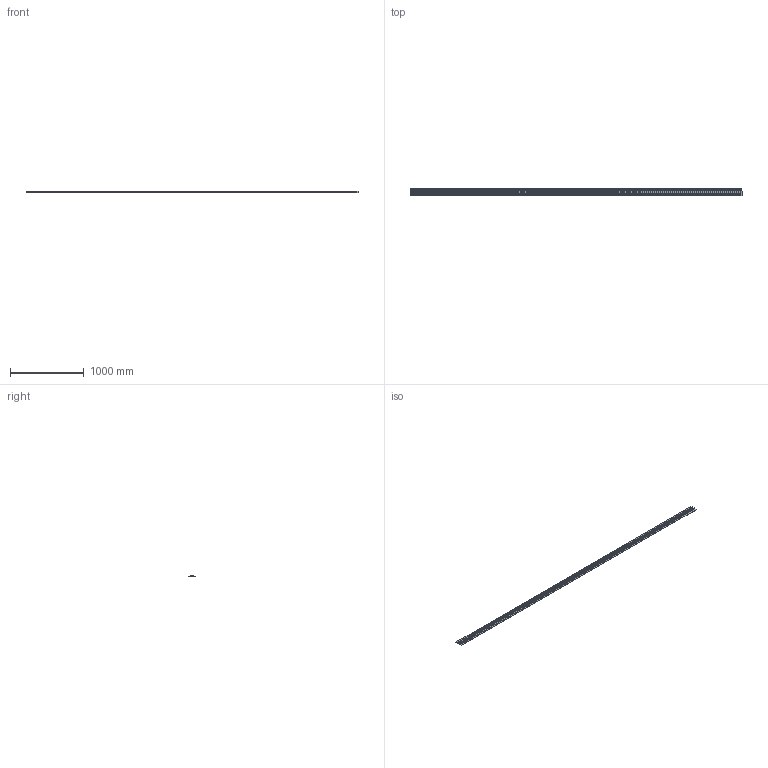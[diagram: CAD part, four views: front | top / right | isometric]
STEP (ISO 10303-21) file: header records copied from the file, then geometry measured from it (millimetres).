
FILE_DESCRIPTION (( 'STEP AP203' ), '1' );
FILE_NAME ('RAILEX STANDARD RXR-KPR.STEP', '2021-06-17T11:00:02', ( '' ), ( '' ), 'SwSTEP 2.0', 'SolidWorks 2020', '' );
FILE_SCHEMA (( 'CONFIG_CONTROL_DESIGN' ));
Length unit declared in the file: millimetre
Products named in the file (1): RAILEX STANDARD RXR-KPR
Bounding box: 4500 x 101.8 x 14 mm (x, y, z)
Volume: 1863432.6 mm3; surface area: 1194273.6 mm2
Topology: 1 solids, 1 shells, 22 faces, 60 edges, 40 vertices
Faces by surface type: plane 22
Entity records: 761 total; most frequent: CARTESIAN_POINT 123, ORIENTED_EDGE 120, DIRECTION 106, VECTOR 60, EDGE_CURVE 60, LINE 60, VERTEX_POINT 40, AXIS2_PLACEMENT_3D 23
